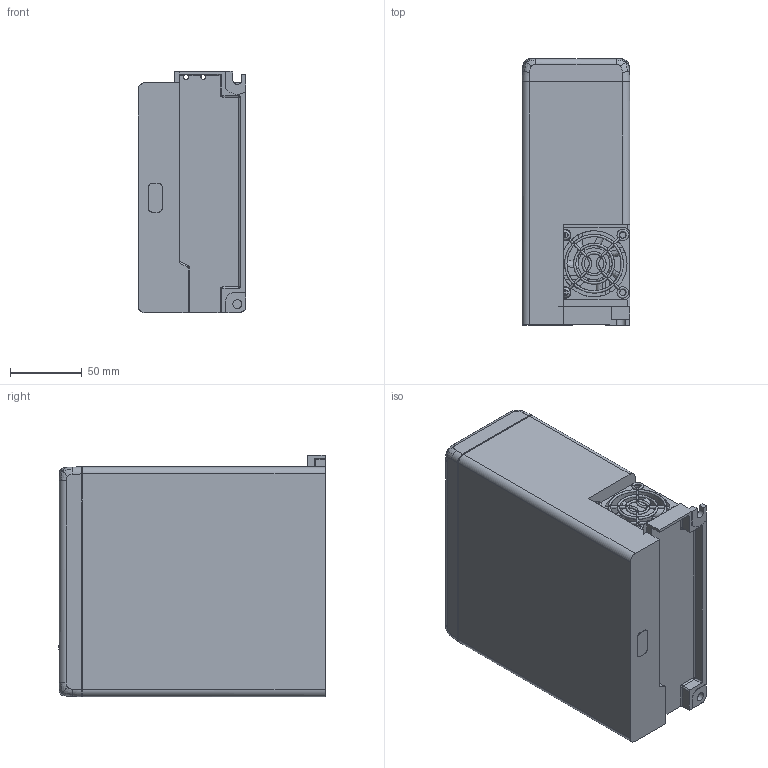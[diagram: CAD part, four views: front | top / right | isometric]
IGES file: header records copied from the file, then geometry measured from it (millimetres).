
Global section: file name: 7HNo Iges File Name specified; native system: Autodesk Inventor 2013; preprocessor: AutoDesk Inventor Iges Exporter R2013; author: 123; date: 20130626.140307; units: millimetre
Bounding box: 75 x 185.7 x 168 mm (x, y, z)
Volume: 2104240.6 mm3; surface area: 138966.1 mm2
Topology: 1 solids, 5 shells, 442 faces, 1245 edges, 873 vertices
Faces by surface type: bspline 442
